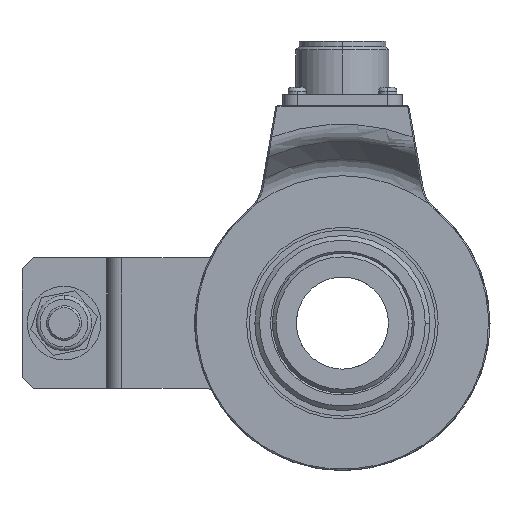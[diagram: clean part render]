
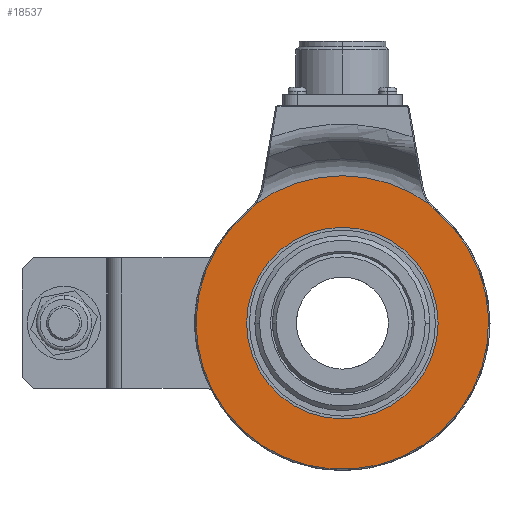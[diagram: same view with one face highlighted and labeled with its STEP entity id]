
A CAD part, left-side view. The second image highlights one B-rep face of the part: STEP entity #18537.
In plain terms, the highlighted planar face has unit normal (-1, 0, 0).
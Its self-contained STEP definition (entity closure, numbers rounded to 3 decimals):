
#214 = DIRECTION ( 'NONE',  ( -1., 0., 0. ) ) ;
#737 = ORIENTED_EDGE ( 'NONE', *, *, #3244, .T. ) ;
#950 = AXIS2_PLACEMENT_3D ( 'NONE', #28147, #214, #21576 ) ;
#2131 = DIRECTION ( 'NONE',  ( 0., 0., -1. ) ) ;
#2976 = ORIENTED_EDGE ( 'NONE', *, *, #16305, .T. ) ;
#3133 = AXIS2_PLACEMENT_3D ( 'NONE', #25643, #19373, #2131 ) ;
#3244 = EDGE_CURVE ( 'NONE', #14668, #10064, #12688, .T. ) ;
#3486 = DIRECTION ( 'NONE',  ( 0., 0., -1. ) ) ;
#3554 = VERTEX_POINT ( 'NONE', #13639 ) ;
#5086 = CIRCLE ( 'NONE', #20965, 26. ) ;
#5220 = CARTESIAN_POINT ( 'NONE',  ( -26., -31.746, 38.629 ) ) ;
#5267 = CARTESIAN_POINT ( 'NONE',  ( -26., -25.207, 30.671 ) ) ;
#5744 = ORIENTED_EDGE ( 'NONE', *, *, #24087, .T. ) ;
#5847 = EDGE_CURVE ( 'NONE', #3554, #20440, #5086, .T. ) ;
#5914 = CIRCLE ( 'NONE', #13225, 10.3 ) ;
#6338 = FACE_BOUND ( 'NONE', #10248, .T. ) ;
#6831 = AXIS2_PLACEMENT_3D ( 'NONE', #25604, #25316, #14497 ) ;
#7075 = CARTESIAN_POINT ( 'NONE',  ( -26., 23.654, 32.257 ) ) ;
#8769 = PLANE ( 'NONE',  #950 ) ;
#10064 = VERTEX_POINT ( 'NONE', #7075 ) ;
#10073 = DIRECTION ( 'NONE',  ( 1., 0., 0. ) ) ;
#10248 = EDGE_LOOP ( 'NONE', ( #28003, #20767 ) ) ;
#12129 = CIRCLE ( 'NONE', #18482, 10.3 ) ;
#12688 = CIRCLE ( 'NONE', #3133, 40. ) ;
#13225 = AXIS2_PLACEMENT_3D ( 'NONE', #19330, #10073, #18757 ) ;
#13639 = CARTESIAN_POINT ( 'NONE',  ( -26., 0., -26. ) ) ;
#13804 = DIRECTION ( 'NONE',  ( -1., 0., 0. ) ) ;
#14248 = CARTESIAN_POINT ( 'NONE',  ( -26., 0., 0. ) ) ;
#14497 = DIRECTION ( 'NONE',  ( 0., 0., -1. ) ) ;
#14668 = VERTEX_POINT ( 'NONE', #21405 ) ;
#15942 = CARTESIAN_POINT ( 'NONE',  ( -26., 0., 0. ) ) ;
#16305 = EDGE_CURVE ( 'NONE', #10064, #19711, #5914, .T. ) ;
#16347 = EDGE_CURVE ( 'NONE', #19711, #20675, #22758, .T. ) ;
#16585 = EDGE_LOOP ( 'NONE', ( #20818, #5744, #737, #2976 ) ) ;
#18482 = AXIS2_PLACEMENT_3D ( 'NONE', #5220, #25018, #3486 ) ;
#18537 = ADVANCED_FACE ( 'NONE', ( #6338, #21290 ), #8769, .T. ) ;
#18757 = DIRECTION ( 'NONE',  ( 0., 0., -1. ) ) ;
#19330 = CARTESIAN_POINT ( 'NONE',  ( -26., 31.746, 38.629 ) ) ;
#19373 = DIRECTION ( 'NONE',  ( -1., 0., 0. ) ) ;
#19415 = EDGE_CURVE ( 'NONE', #20440, #3554, #20083, .T. ) ;
#19711 = VERTEX_POINT ( 'NONE', #25002 ) ;
#20083 = CIRCLE ( 'NONE', #23720, 26. ) ;
#20440 = VERTEX_POINT ( 'NONE', #22803 ) ;
#20598 = DIRECTION ( 'NONE',  ( 0., 0., -1. ) ) ;
#20675 = VERTEX_POINT ( 'NONE', #5267 ) ;
#20767 = ORIENTED_EDGE ( 'NONE', *, *, #19415, .F. ) ;
#20818 = ORIENTED_EDGE ( 'NONE', *, *, #16347, .T. ) ;
#20965 = AXIS2_PLACEMENT_3D ( 'NONE', #14248, #24541, #22915 ) ;
#21290 = FACE_OUTER_BOUND ( 'NONE', #16585, .T. ) ;
#21405 = CARTESIAN_POINT ( 'NONE',  ( -26., -23.654, 32.257 ) ) ;
#21576 = DIRECTION ( 'NONE',  ( 0., 0., -1. ) ) ;
#22758 = CIRCLE ( 'NONE', #6831, 39.7 ) ;
#22803 = CARTESIAN_POINT ( 'NONE',  ( -26., 0., 26. ) ) ;
#22915 = DIRECTION ( 'NONE',  ( 0., 0., -1. ) ) ;
#23720 = AXIS2_PLACEMENT_3D ( 'NONE', #15942, #13804, #20598 ) ;
#24087 = EDGE_CURVE ( 'NONE', #20675, #14668, #12129, .T. ) ;
#24541 = DIRECTION ( 'NONE',  ( -1., 0., 0. ) ) ;
#25002 = CARTESIAN_POINT ( 'NONE',  ( -26., 25.207, 30.671 ) ) ;
#25018 = DIRECTION ( 'NONE',  ( 1., 0., 0. ) ) ;
#25316 = DIRECTION ( 'NONE',  ( -1., 0., 0. ) ) ;
#25604 = CARTESIAN_POINT ( 'NONE',  ( -26., 0., 0. ) ) ;
#25643 = CARTESIAN_POINT ( 'NONE',  ( -26., 0., 0. ) ) ;
#28003 = ORIENTED_EDGE ( 'NONE', *, *, #5847, .F. ) ;
#28147 = CARTESIAN_POINT ( 'NONE',  ( -26., 0., 0. ) ) ;
